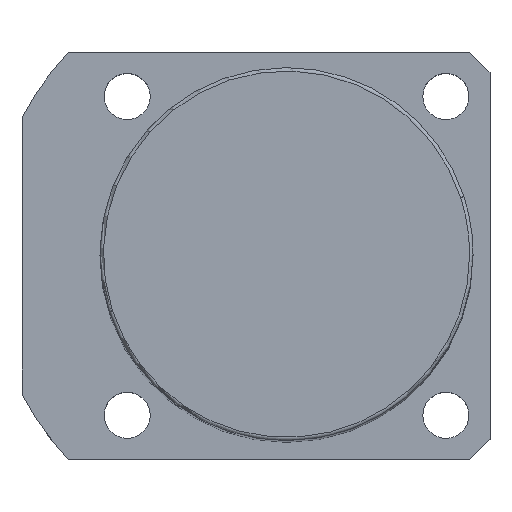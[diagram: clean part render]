
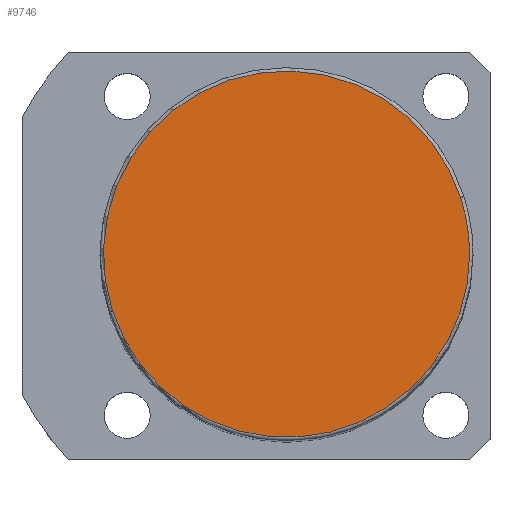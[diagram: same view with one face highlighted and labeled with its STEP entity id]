
A CAD part, top view. The second image highlights one B-rep face of the part: STEP entity #9746.
In plain terms, the highlighted planar face has unit normal (0, 0, 1).
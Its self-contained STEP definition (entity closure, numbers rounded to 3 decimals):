
#9712=CARTESIAN_POINT('',(27.0,0.0,156.0));
#9713=VERTEX_POINT('',#9712);
#9714=CARTESIAN_POINT('',(25.679,8.343,156.0));
#9715=VERTEX_POINT('',#9714);
#9716=CARTESIAN_POINT('',(0.0,0.0,156.0));
#9717=DIRECTION('',(0.0,0.0,1.0));
#9718=DIRECTION('',(1.0,0.0,0.0));
#9719=AXIS2_PLACEMENT_3D('',#9716,#9717,#9718);
#9720=CIRCLE('',#9719,27.0);
#9721=EDGE_CURVE('no 4606',#9713,#9715,#9720,.T.);
#9722=ORIENTED_EDGE('',*,*,#9721,.T.);
#9723=CARTESIAN_POINT('',(-25.679,-8.343,156.0));
#9724=VERTEX_POINT('',#9723);
#9725=CARTESIAN_POINT('',(0.0,0.0,156.0));
#9726=DIRECTION('',(0.0,0.0,1.0));
#9727=DIRECTION('',(1.0,0.0,0.0));
#9728=AXIS2_PLACEMENT_3D('',#9725,#9726,#9727);
#9729=CIRCLE('',#9728,27.0);
#9730=EDGE_CURVE('no 4612',#9715,#9724,#9729,.T.);
#9731=ORIENTED_EDGE('',*,*,#9730,.T.);
#9732=CARTESIAN_POINT('',(0.0,0.0,156.0));
#9733=DIRECTION('',(0.0,0.0,1.0));
#9734=DIRECTION('',(1.0,0.0,0.0));
#9735=AXIS2_PLACEMENT_3D('',#9732,#9733,#9734);
#9736=CIRCLE('',#9735,27.0);
#9737=EDGE_CURVE('no 4616',#9724,#9713,#9736,.T.);
#9738=ORIENTED_EDGE('',*,*,#9737,.T.);
#9739=EDGE_LOOP('',(#9722,#9731,#9738));
#9740=FACE_OUTER_BOUND('',#9739,.T.);
#9741=CARTESIAN_POINT('',(0.0,0.0,156.0));
#9742=DIRECTION('',(0.0,0.0,1.0));
#9743=DIRECTION('',(1.0,0.0,0.0));
#9744=AXIS2_PLACEMENT_3D('',#9741,#9742,#9743);
#9745=PLANE('',#9744);
#9746=ADVANCED_FACE('no 4597',(#9740),#9745,.T.);
